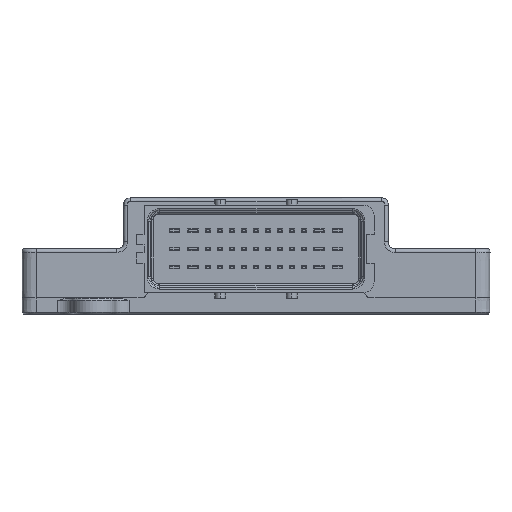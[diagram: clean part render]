
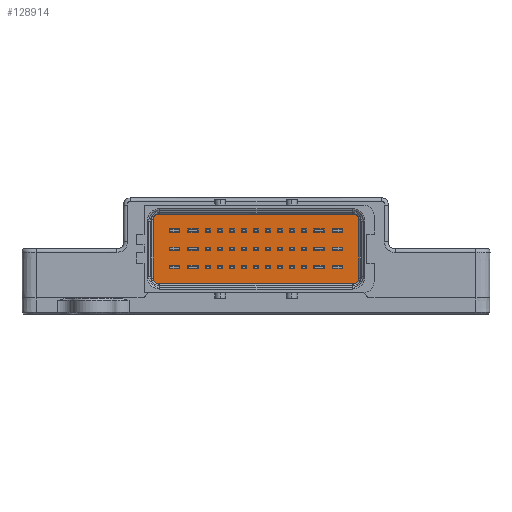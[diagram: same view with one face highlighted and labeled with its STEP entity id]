
A CAD part, left-side view. The second image highlights one B-rep face of the part: STEP entity #128914.
In plain terms, the highlighted planar face has unit normal (-1, 0, 0) as drawn and (1, 0, 0) by its records, which use the part's own axes.
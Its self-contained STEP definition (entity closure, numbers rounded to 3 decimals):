
#279 = AXIS2_PLACEMENT_3D ( 'NONE', #123836, #7589, #42531 ) ;
#3454 = ORIENTED_EDGE ( 'NONE', *, *, #52238, .T. ) ;
#4043 = CARTESIAN_POINT ( 'NONE',  ( 4.5, 28.8, -9.75 ) ) ;
#5525 = DIRECTION ( 'NONE',  ( 0., 0., 1. ) ) ;
#6046 = CIRCLE ( 'NONE', #90998, 1.5 ) ;
#7589 = DIRECTION ( 'NONE',  ( 1., 0., 0. ) ) ;
#8513 = CARTESIAN_POINT ( 'NONE',  ( 4.5, 27.3, 9.75 ) ) ;
#13608 = CARTESIAN_POINT ( 'NONE',  ( 4.5, -27.3, 8.25 ) ) ;
#14557 = DIRECTION ( 'NONE',  ( 1., 0., 0. ) ) ;
#14911 = VERTEX_POINT ( 'NONE', #85243 ) ;
#14932 = ORIENTED_EDGE ( 'NONE', *, *, #70382, .T. ) ;
#15094 = DIRECTION ( 'NONE',  ( 0., 0., 1. ) ) ;
#15334 = DIRECTION ( 'NONE',  ( 0., 1., 0. ) ) ;
#19196 = LINE ( 'NONE', #147565, #101576 ) ;
#20812 = EDGE_CURVE ( 'NONE', #63973, #62708, #93269, .T. ) ;
#20948 = EDGE_LOOP ( 'NONE', ( #134268, #135001, #3454, #114968, #14932, #139198, #110969, #33383 ) ) ;
#21123 = VERTEX_POINT ( 'NONE', #126954 ) ;
#21691 = VERTEX_POINT ( 'NONE', #67855 ) ;
#30770 = CARTESIAN_POINT ( 'NONE',  ( 4.5, -28.8, -8.25 ) ) ;
#33092 = VECTOR ( 'NONE', #121583, 1000. ) ;
#33383 = ORIENTED_EDGE ( 'NONE', *, *, #20812, .T. ) ;
#35095 = AXIS2_PLACEMENT_3D ( 'NONE', #73225, #14557, #121042 ) ;
#35326 = VERTEX_POINT ( 'NONE', #8513 ) ;
#37090 = EDGE_CURVE ( 'NONE', #21123, #21691, #128725, .T. ) ;
#40201 = EDGE_CURVE ( 'NONE', #48458, #116022, #6046, .T. ) ;
#41413 = AXIS2_PLACEMENT_3D ( 'NONE', #13608, #74526, #15094 ) ;
#42531 = DIRECTION ( 'NONE',  ( 0., 0., 1. ) ) ;
#43878 = CIRCLE ( 'NONE', #279, 1.5 ) ;
#48458 = VERTEX_POINT ( 'NONE', #30770 ) ;
#51117 = LINE ( 'NONE', #101262, #112053 ) ;
#51672 = CARTESIAN_POINT ( 'NONE',  ( 4.5, -28.8, 0. ) ) ;
#52238 = EDGE_CURVE ( 'NONE', #35326, #21123, #19196, .T. ) ;
#52753 = DIRECTION ( 'NONE',  ( 1., 0., 0. ) ) ;
#62632 = CARTESIAN_POINT ( 'NONE',  ( 4.5, -27.3, -9.75 ) ) ;
#62708 = VERTEX_POINT ( 'NONE', #139351 ) ;
#63973 = VERTEX_POINT ( 'NONE', #136312 ) ;
#67855 = CARTESIAN_POINT ( 'NONE',  ( 4.5, -28.8, 8.25 ) ) ;
#70382 = EDGE_CURVE ( 'NONE', #21691, #48458, #91659, .T. ) ;
#73225 = CARTESIAN_POINT ( 'NONE',  ( 4.5, 27.3, -8.25 ) ) ;
#74526 = DIRECTION ( 'NONE',  ( 1., 0., 0. ) ) ;
#76147 = EDGE_CURVE ( 'NONE', #62708, #14911, #51117, .T. ) ;
#85243 = CARTESIAN_POINT ( 'NONE',  ( 4.5, 28.8, 8.25 ) ) ;
#88460 = PLANE ( 'NONE',  #94404 ) ;
#90998 = AXIS2_PLACEMENT_3D ( 'NONE', #101400, #137014, #125622 ) ;
#91659 = LINE ( 'NONE', #51672, #33092 ) ;
#93269 = CIRCLE ( 'NONE', #35095, 1.5 ) ;
#94404 = AXIS2_PLACEMENT_3D ( 'NONE', #134765, #52753, #109073 ) ;
#101262 = CARTESIAN_POINT ( 'NONE',  ( 4.5, 28.8, 0. ) ) ;
#101400 = CARTESIAN_POINT ( 'NONE',  ( 4.5, -27.3, -8.25 ) ) ;
#101576 = VECTOR ( 'NONE', #102067, 1000. ) ;
#102067 = DIRECTION ( 'NONE',  ( 0., -1., 0. ) ) ;
#104586 = EDGE_CURVE ( 'NONE', #14911, #35326, #43878, .T. ) ;
#109073 = DIRECTION ( 'NONE',  ( 0., 0., -1. ) ) ;
#110969 = ORIENTED_EDGE ( 'NONE', *, *, #115230, .T. ) ;
#112053 = VECTOR ( 'NONE', #5525, 1000. ) ;
#112066 = FACE_OUTER_BOUND ( 'NONE', #20948, .T. ) ;
#114968 = ORIENTED_EDGE ( 'NONE', *, *, #37090, .T. ) ;
#115230 = EDGE_CURVE ( 'NONE', #116022, #63973, #118068, .T. ) ;
#116022 = VERTEX_POINT ( 'NONE', #62632 ) ;
#118068 = LINE ( 'NONE', #4043, #148518 ) ;
#121042 = DIRECTION ( 'NONE',  ( 0., 0., 1. ) ) ;
#121583 = DIRECTION ( 'NONE',  ( 0., 0., -1. ) ) ;
#123836 = CARTESIAN_POINT ( 'NONE',  ( 4.5, 27.3, 8.25 ) ) ;
#125622 = DIRECTION ( 'NONE',  ( 0., 0., 1. ) ) ;
#126954 = CARTESIAN_POINT ( 'NONE',  ( 4.5, -27.3, 9.75 ) ) ;
#128725 = CIRCLE ( 'NONE', #41413, 1.5 ) ;
#128914 = ADVANCED_FACE ( 'NONE', ( #112066 ), #88460, .T. ) ;
#134268 = ORIENTED_EDGE ( 'NONE', *, *, #76147, .T. ) ;
#134765 = CARTESIAN_POINT ( 'NONE',  ( 4.5, 0., 0. ) ) ;
#135001 = ORIENTED_EDGE ( 'NONE', *, *, #104586, .T. ) ;
#136312 = CARTESIAN_POINT ( 'NONE',  ( 4.5, 27.3, -9.75 ) ) ;
#137014 = DIRECTION ( 'NONE',  ( 1., 0., 0. ) ) ;
#139198 = ORIENTED_EDGE ( 'NONE', *, *, #40201, .T. ) ;
#139351 = CARTESIAN_POINT ( 'NONE',  ( 4.5, 28.8, -8.25 ) ) ;
#147565 = CARTESIAN_POINT ( 'NONE',  ( 4.5, -28.8, 9.75 ) ) ;
#148518 = VECTOR ( 'NONE', #15334, 1000. ) ;
